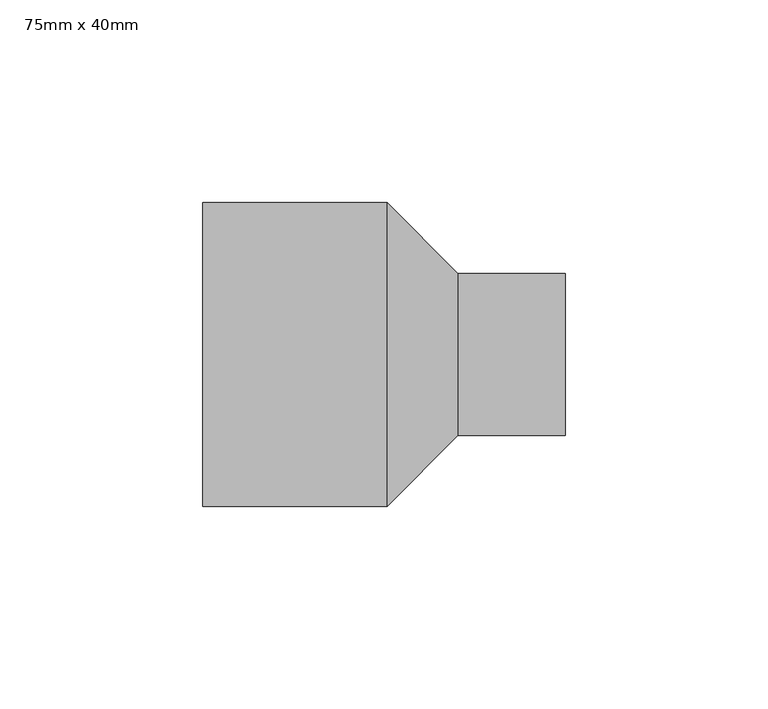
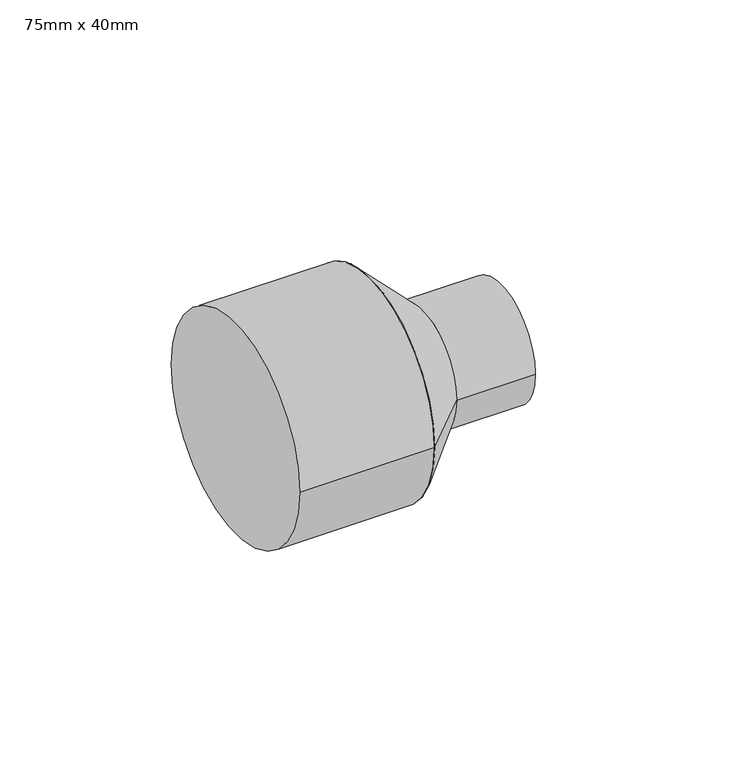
"""IFC4 building model written with IfcOpenShell, lengths in millimetres: pipe fitting geometry, PipeFitting_HTA_CPVC_ReducingBushesLongPattern : 75mm x 40mm."""

from ifc_helpers import new_model, si_unit, point, frame, origin, origin_2d, place, context, project, spatial, polyline, circle_curve, trimmed, segment, composite_curve, outline, extrude, source, transform, mapped, element, save
from ifc_brep_helpers import plane_surface, revolved_surface, advanced_brep


def pipe_fitting_75mm_x_40mm_017143fe(model_context):
    return source(origin(), model_context, "Body", "SolidModel", [
        advanced_brep(
        [(63.0, -20.0, 0.0), (63.0, 20.0, 0.0), (45.5, -37.5, 0.0), (45.5, 37.5, 0.0)],
        [
            (0, 1, circle_curve(frame((63.0, 0.0, 0.0), z_axis=(1.0, 0.0, 0.0), x_axis=(0.0, -1.0, 0.0)), 20.0)),
            (1, 0, circle_curve(frame((63.0, 0.0, 0.0), z_axis=(1.0, 0.0, 0.0), x_axis=(0.0, 1.0, 0.0)), 20.0)),
            (2, 3, circle_curve(frame((45.5, 0.0, 0.0), z_axis=(-1.0, 0.0, 0.0), x_axis=(0.0, 1.0, 0.0)), 37.5)),
            (3, 2, circle_curve(frame((45.5, 0.0, 0.0), z_axis=(-1.0, 0.0, 0.0), x_axis=(0.0, -1.0, 0.0)), 37.5)),
            (3, 1),
            (0, 2),
        ],
        [
            plane_surface(frame((63.0, 0.0, 0.0), z_axis=(1.0, 0.0, 0.0), x_axis=(0.0, 0.0, -1.0))),
            plane_surface(frame((45.5, 0.0, 0.0), z_axis=(-1.0, 0.0, 0.0), x_axis=(0.0, 0.0, -1.0))),
            revolved_surface(polyline([(63.0, -20.0, 0.0), (45.5, -37.5, 0.0)]), (83.0, 0.0, 0.0), (-1.0, 0.0, 0.0)),
            revolved_surface(polyline([(63.0, 20.0, 0.0), (45.5, 37.5, 0.0)]), (83.0, 0.0, 0.0), (-1.0, 0.0, 0.0)),
        ],
        [
            (0, [[1, 2]]),
            (1, [[3, 4]]),
            (2, [[-4, 5, -1, 6]]),
            (3, [[-3, -6, -2, -5]]),
        ],
    ),
        extrude(outline(composite_curve([segment(trimmed(circle_curve(origin_2d(), 20.0), [point((-20.0, 0.0))], [point((20.0, 0.0))], False, "CARTESIAN"), True, "CONTINUOUS"), segment(trimmed(circle_curve(origin_2d(), 20.0), [point((20.0, 0.0))], [point((-20.0, 0.0))], False, "CARTESIAN"), True, "CONTINUOUS")], self_intersect=False)), frame((63.0, 0.0, 0.0), z_axis=(1.0, 0.0, 0.0), x_axis=(0.0, 1.0, 0.0)), (0.0, 0.0, 1.0), 26.5),
        extrude(outline(composite_curve([segment(trimmed(circle_curve(origin_2d(), 37.5), [point((-37.5, 0.0))], [point((37.5, 0.0))], False, "CARTESIAN"), True, "CONTINUOUS"), segment(trimmed(circle_curve(origin_2d(), 37.5), [point((37.5, 0.0))], [point((-37.5, 0.0))], False, "CARTESIAN"), True, "CONTINUOUS")], self_intersect=False)), frame((0.0, 0.0, 0.0), z_axis=(1.0, 0.0, 0.0), x_axis=(0.0, 1.0, 0.0)), (0.0, 0.0, 1.0), 45.5),
    ])


if __name__ == "__main__":
    model = new_model("IFC4")
    model_context = context("Model", 3, world=origin())
    ifc_project = project(units=[si_unit("LENGTHUNIT", "METRE", prefix="MILLI")], contexts=[model_context])
    site = spatial("IfcSite", under=ifc_project)
    building = spatial("IfcBuilding", under=site)
    placement = place(None, origin())
    pipe_fitting_75mm_x_40mm_shape = pipe_fitting_75mm_x_40mm_017143fe(model_context)
    element("IfcPipeFitting", 1, ObjectType="PipeFitting_HTA_CPVC_ReducingBushesLongPattern : 75mm x 40mm", at=placement, inside=building, context=model_context, shape_type="MappedRepresentation", body=[
        mapped(pipe_fitting_75mm_x_40mm_shape, transform((0.0, 0.0, 0.0), x_axis=(1.0, 0.0, 0.0), y_axis=(0.0, 1.0, 0.0), z_axis=(0.0, 0.0, 1.0))),
    ])
    save(model, "model.ifc")
